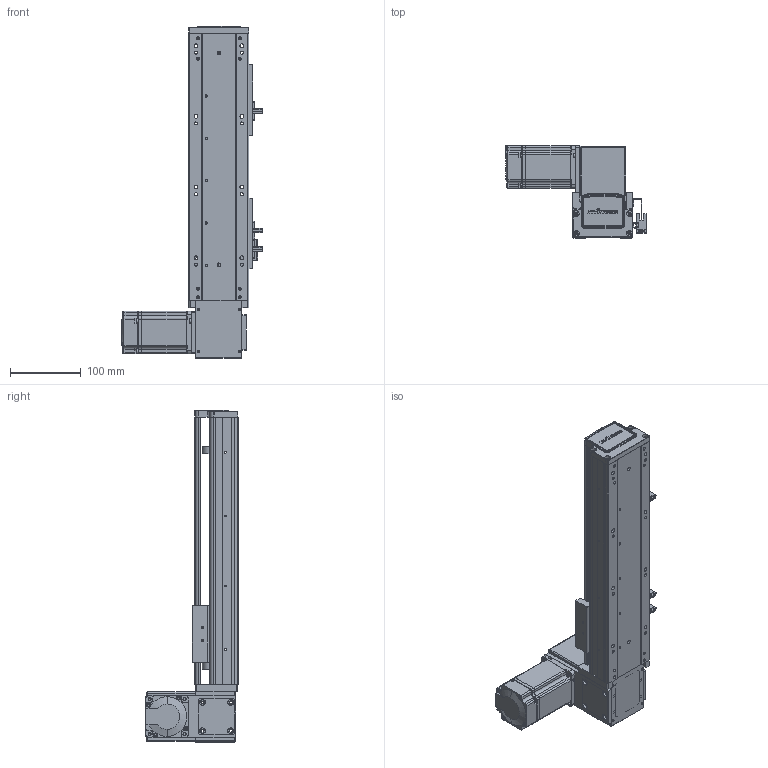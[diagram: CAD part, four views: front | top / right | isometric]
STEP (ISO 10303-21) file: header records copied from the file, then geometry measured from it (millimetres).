
FILE_DESCRIPTION (( 'STEP AP203' ), '1' );
FILE_NAME ('RY80-T-300-UL.SLDASM_200.step', '2021-03-01T02:16:09', ( '盈信电脑' ), ( '东莞市道滘镇水果街19号' ), 'SwSTEP 2.0', 'SolidWorks 2012', '' );
FILE_SCHEMA (( 'CONFIG_CONTROL_DESIGN' ));
Products named in the file (19): RY80-T-上下折同步轮盖板; RY80-T-300-UL.SLDASM_200; RY80-T-M4蹟翐2; RY80-T翋肮祭謫裔啣; 1; RY80-T肮祭謫奻殏俋欶; 滅袉蝶18-10; RY80-T粣創揤踡輸; RY80-T萇儂假蚾啣; RY80-T肮祭湍揤輸1; RY80-T肮祭湍揤輸2; RY80俋离覜茼え; RY80-T-翋肮祭謫釱; 覜茼ん672; RY80-T-300-UL倰第奻裔啣_200; 672嫖萇羲壽假蚾釱; RY80-T綴裔啣; RY80-T肮祭謫臏賑輸; RY80-T-300-UL倰第菁釱_200
Assembly tree (24 placements, depth 2):
  RY80-T-300-UL.SLDASM_200
    RY80-T-300-UL倰第菁釱_200
    RY80-T肮祭謫臏賑輸
    RY80-T-300-UL倰第奻裔啣_200
    RY80-T綴裔啣
    672嫖萇羲壽假蚾釱  x2
    覜茼ん672  x3
    RY80俋离覜茼え
    RY80-T-翋肮祭謫釱
    RY80-T肮祭湍揤輸1
    RY80-T肮祭湍揤輸2
    RY80-T萇儂假蚾啣
    RY80-T粣創揤踡輸  x2
    滅袉蝶18-10  x2
    RY80-T翋肮祭謫裔啣
    1
    RY80-T肮祭謫奻殏俋欶
    RY80-T-M4蹟翐2  x2
    RY80-T-上下折同步轮盖板
Bounding box: 198.7 x 130.5 x 470 mm (x, y, z)
Volume: 1158539.4 mm3; surface area: 451252.5 mm2
Topology: 24 solids, 24 shells, 2376 faces, 6495 edges, 4215 vertices
Faces by surface type: plane 1324, cylinder 851, cone 145, bspline 56
Entity records: 72561 total; most frequent: CARTESIAN_POINT 16716, ORIENTED_EDGE 11374, DIRECTION 10830, EDGE_CURVE 5687, VERTEX_POINT 3736, VECTOR 3642, LINE 3642, AXIS2_PLACEMENT_3D 3594
